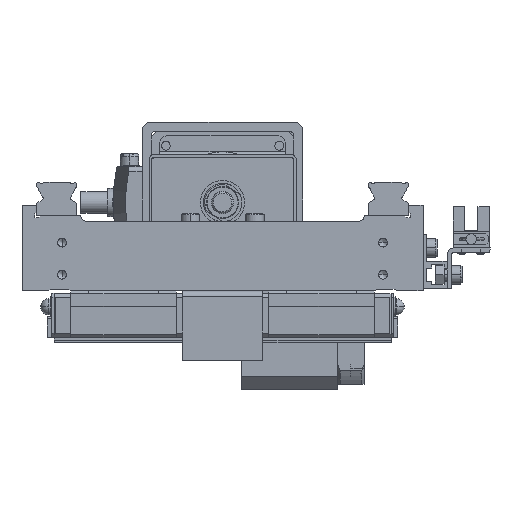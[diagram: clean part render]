
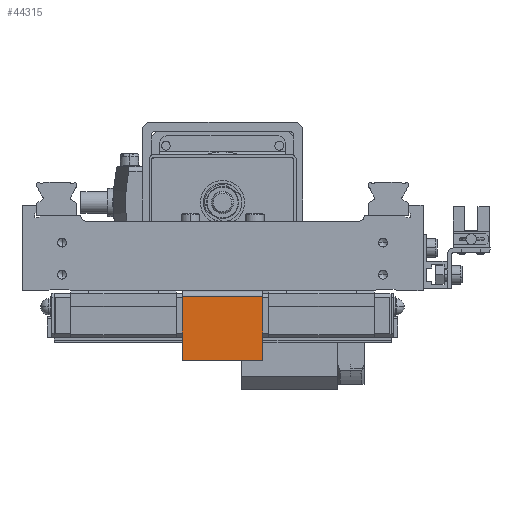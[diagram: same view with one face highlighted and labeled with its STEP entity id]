
A CAD part, front view. The second image highlights one B-rep face of the part: STEP entity #44315.
In plain terms, the highlighted planar face has unit normal (0, -1, 0) as drawn and (0, 0, 1) by its records, which use the part's own axes.
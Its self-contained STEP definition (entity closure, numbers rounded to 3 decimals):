
#9205 = CARTESIAN_POINT ( 'NONE',  ( 15., -2.2, 12. ) ) ;
#9493 = EDGE_CURVE ( 'NONE', #136730, #29271, #117370, .T. ) ;
#11162 = ORIENTED_EDGE ( 'NONE', *, *, #59748, .F. ) ;
#11600 = CARTESIAN_POINT ( 'NONE',  ( -15., 0., 12. ) ) ;
#17008 = CARTESIAN_POINT ( 'NONE',  ( 15., -26., 12. ) ) ;
#20125 = DIRECTION ( 'NONE',  ( 1., 0., 0. ) ) ;
#21234 = EDGE_CURVE ( 'NONE', #41643, #92127, #92041, .T. ) ;
#25150 = CARTESIAN_POINT ( 'NONE',  ( -15., -26., 12. ) ) ;
#29271 = VERTEX_POINT ( 'NONE', #25150 ) ;
#34801 = EDGE_LOOP ( 'NONE', ( #65342, #11162, #62681, #81323 ) ) ;
#36154 = CARTESIAN_POINT ( 'NONE',  ( -15., -2.2, 12. ) ) ;
#38876 = DIRECTION ( 'NONE',  ( 0., -1., 0. ) ) ;
#41643 = VERTEX_POINT ( 'NONE', #9205 ) ;
#44307 = FACE_OUTER_BOUND ( 'NONE', #34801, .T. ) ;
#44315 = ADVANCED_FACE ( 'NONE', ( #44307 ), #80681, .T. ) ;
#52004 = AXIS2_PLACEMENT_3D ( 'NONE', #69896, #122979, #38876 ) ;
#53447 = DIRECTION ( 'NONE',  ( -1., 0., 0. ) ) ;
#59748 = EDGE_CURVE ( 'NONE', #136730, #41643, #121908, .T. ) ;
#61816 = VECTOR ( 'NONE', #86374, 1000. ) ;
#62681 = ORIENTED_EDGE ( 'NONE', *, *, #9493, .T. ) ;
#65342 = ORIENTED_EDGE ( 'NONE', *, *, #21234, .F. ) ;
#69896 = CARTESIAN_POINT ( 'NONE',  ( -15., 0., 12. ) ) ;
#80681 = PLANE ( 'NONE',  #52004 ) ;
#81323 = ORIENTED_EDGE ( 'NONE', *, *, #134677, .F. ) ;
#86057 = CARTESIAN_POINT ( 'NONE',  ( 15., 0., 12. ) ) ;
#86374 = DIRECTION ( 'NONE',  ( 0., -1., 0. ) ) ;
#88776 = VECTOR ( 'NONE', #53447, 1000. ) ;
#91636 = VECTOR ( 'NONE', #20125, 1000. ) ;
#92041 = LINE ( 'NONE', #86057, #112276 ) ;
#92127 = VERTEX_POINT ( 'NONE', #17008 ) ;
#94746 = CARTESIAN_POINT ( 'NONE',  ( -15., -26., 12. ) ) ;
#98922 = LINE ( 'NONE', #94746, #88776 ) ;
#107628 = CARTESIAN_POINT ( 'NONE',  ( -15., -2.2, 12. ) ) ;
#112276 = VECTOR ( 'NONE', #129336, 1000. ) ;
#117370 = LINE ( 'NONE', #11600, #61816 ) ;
#121908 = LINE ( 'NONE', #107628, #91636 ) ;
#122979 = DIRECTION ( 'NONE',  ( 0., 0., 1. ) ) ;
#129336 = DIRECTION ( 'NONE',  ( 0., -1., 0. ) ) ;
#134677 = EDGE_CURVE ( 'NONE', #92127, #29271, #98922, .T. ) ;
#136730 = VERTEX_POINT ( 'NONE', #36154 ) ;
